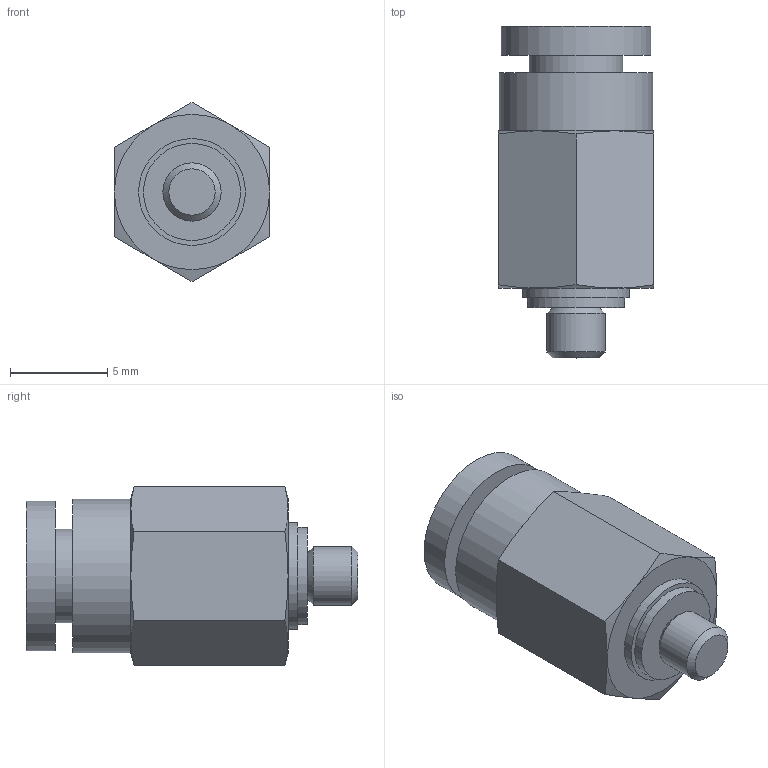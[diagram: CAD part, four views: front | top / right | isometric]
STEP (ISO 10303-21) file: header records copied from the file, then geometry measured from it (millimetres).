
FILE_DESCRIPTION(/* description */ ('STEP AP214'),/* implementation_level */ '2;1');
FILE_NAME(/* name */ 'KQ2H04-M3G',/* time_stamp */ '2023-03-09T03:53:20+01:00',/* author */ ('License CC BY-ND 4.0'),/* organization */ ('CADENAS'),/* preprocessor_version */ 'ST-DEVELOPER v18.102',/* originating_system */ 'PARTsolutions',/* authorisation */ ' ');
FILE_SCHEMA (('AUTOMOTIVE_DESIGN {1 0 10303 214 3 1 1}'));
Length unit declared in the file: millimetre
Products named in the file (1): KQ2H04-M3G
Bounding box: 8 x 17.1 x 9.24 mm (x, y, z)
Volume: 553.7 mm3; surface area: 723.5 mm2
Topology: 1 solids, 1 shells, 36 faces, 67 edges, 40 vertices
Faces by surface type: plane 15, cone 14, cylinder 7
Full cylindrical faces by diameter (mm): 3 x1, 4 x1, 4.8 x1, 5 x1, 5.5 x1, 7.7 x1, 7.9 x1
Entity records: 896 total; most frequent: CARTESIAN_POINT 207, DIRECTION 136, ORIENTED_EDGE 116, AXIS2_PLACEMENT_3D 65, EDGE_CURVE 58, EDGE_LOOP 52, FACE_BOUND 52, VERTEX_POINT 40
